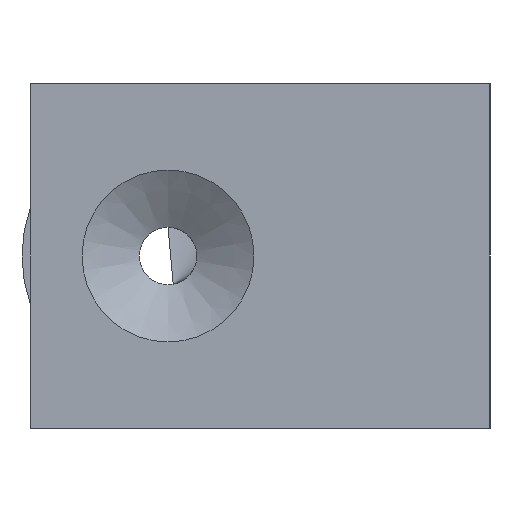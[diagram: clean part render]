
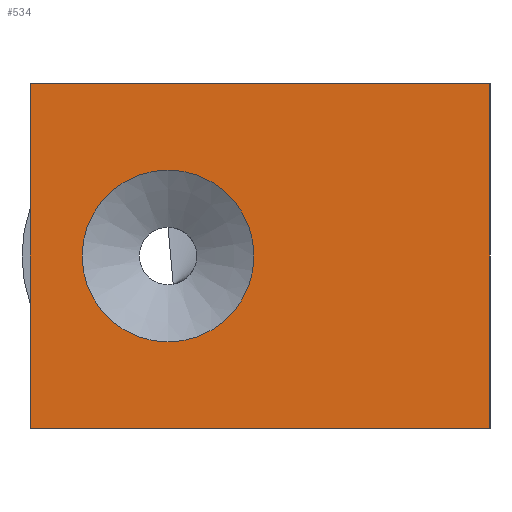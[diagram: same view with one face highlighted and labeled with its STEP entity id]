
A CAD part, left-side view. The second image highlights one B-rep face of the part: STEP entity #534.
In plain terms, the highlighted planar face has unit normal (-1, 0, 0).
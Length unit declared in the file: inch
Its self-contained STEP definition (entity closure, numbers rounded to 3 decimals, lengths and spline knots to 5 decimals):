
#4 = EDGE_CURVE ( 'NONE', #517, #1119, #911, .T. ) ;
#12 = AXIS2_PLACEMENT_3D ( 'NONE', #1162, #976, #314 ) ;
#13 = CARTESIAN_POINT ( 'NONE',  ( 0., 0., -0.59055 ) ) ;
#16 = FACE_BOUND ( 'NONE', #122, .T. ) ;
#49 = LINE ( 'NONE', #727, #1244 ) ;
#122 = EDGE_LOOP ( 'NONE', ( #148 ) ) ;
#124 = LINE ( 'NONE', #222, #840 ) ;
#127 = VERTEX_POINT ( 'NONE', #263 ) ;
#148 = ORIENTED_EDGE ( 'NONE', *, *, #888, .F. ) ;
#157 = ORIENTED_EDGE ( 'NONE', *, *, #195, .T. ) ;
#166 = CARTESIAN_POINT ( 'NONE',  ( 0., 1.10236, 0. ) ) ;
#167 = EDGE_LOOP ( 'NONE', ( #624, #796, #157, #908 ) ) ;
#184 = DIRECTION ( 'NONE',  ( 0., 0., 1. ) ) ;
#195 = EDGE_CURVE ( 'NONE', #468, #517, #49, .T. ) ;
#202 = FACE_OUTER_BOUND ( 'NONE', #167, .T. ) ;
#209 = CIRCLE ( 'NONE', #1092, 0.29429 ) ;
#222 = CARTESIAN_POINT ( 'NONE',  ( 0., 0., 0.59055 ) ) ;
#263 = CARTESIAN_POINT ( 'NONE',  ( 0., 1.5748, 0.59055 ) ) ;
#314 = DIRECTION ( 'NONE',  ( 0., 0., 1. ) ) ;
#346 = EDGE_CURVE ( 'NONE', #468, #127, #587, .T. ) ;
#442 = DIRECTION ( 'NONE',  ( 0., 0., 1. ) ) ;
#468 = VERTEX_POINT ( 'NONE', #757 ) ;
#512 = DIRECTION ( 'NONE',  ( 0., -1., 0. ) ) ;
#517 = VERTEX_POINT ( 'NONE', #13 ) ;
#534 = ADVANCED_FACE ( 'NONE', ( #202, #16 ), #795, .T. ) ;
#564 = DIRECTION ( 'NONE',  ( -1., 0., 0. ) ) ;
#587 = LINE ( 'NONE', #967, #899 ) ;
#602 = EDGE_CURVE ( 'NONE', #127, #1119, #124, .T. ) ;
#624 = ORIENTED_EDGE ( 'NONE', *, *, #602, .F. ) ;
#636 = DIRECTION ( 'NONE',  ( 0., -1., 0. ) ) ;
#646 = CARTESIAN_POINT ( 'NONE',  ( 0., 1.10236, 0.29429 ) ) ;
#651 = CARTESIAN_POINT ( 'NONE',  ( 0., 0., -0.59055 ) ) ;
#727 = CARTESIAN_POINT ( 'NONE',  ( 0., 0., -0.59055 ) ) ;
#757 = CARTESIAN_POINT ( 'NONE',  ( 0., 1.5748, -0.59055 ) ) ;
#795 = PLANE ( 'NONE',  #12 ) ;
#796 = ORIENTED_EDGE ( 'NONE', *, *, #346, .F. ) ;
#840 = VECTOR ( 'NONE', #512, 39.37008 ) ;
#852 = DIRECTION ( 'NONE',  ( 0., 0., 1. ) ) ;
#884 = CARTESIAN_POINT ( 'NONE',  ( 0., 0., 0.59055 ) ) ;
#888 = EDGE_CURVE ( 'NONE', #1199, #1199, #209, .T. ) ;
#899 = VECTOR ( 'NONE', #184, 39.37008 ) ;
#908 = ORIENTED_EDGE ( 'NONE', *, *, #4, .T. ) ;
#911 = LINE ( 'NONE', #651, #942 ) ;
#942 = VECTOR ( 'NONE', #442, 39.37008 ) ;
#967 = CARTESIAN_POINT ( 'NONE',  ( 0., 1.5748, -0.59055 ) ) ;
#976 = DIRECTION ( 'NONE',  ( -1., 0., 0. ) ) ;
#1092 = AXIS2_PLACEMENT_3D ( 'NONE', #166, #564, #852 ) ;
#1119 = VERTEX_POINT ( 'NONE', #884 ) ;
#1162 = CARTESIAN_POINT ( 'NONE',  ( 0., 0., -0.59055 ) ) ;
#1199 = VERTEX_POINT ( 'NONE', #646 ) ;
#1244 = VECTOR ( 'NONE', #636, 39.37008 ) ;
